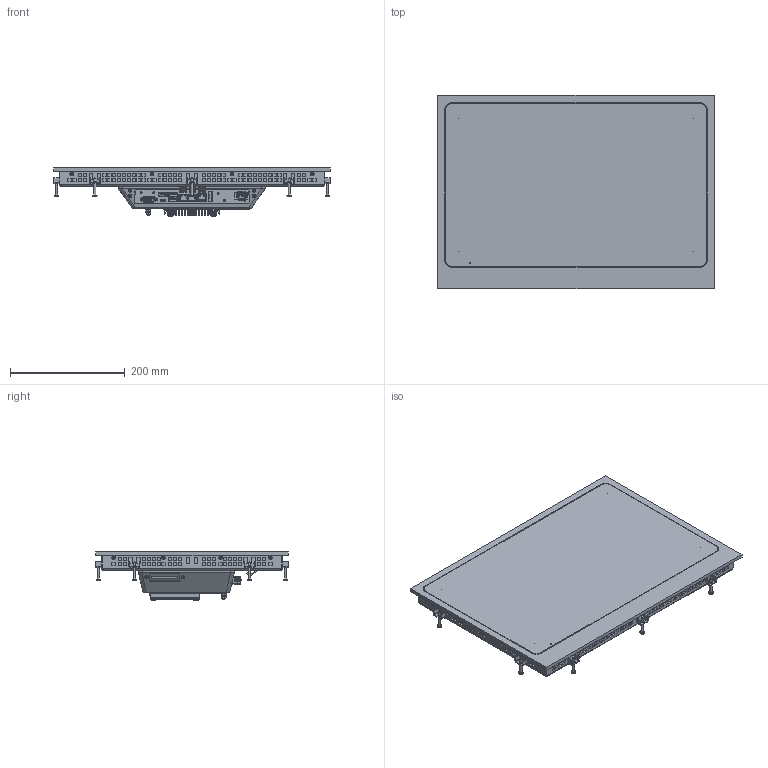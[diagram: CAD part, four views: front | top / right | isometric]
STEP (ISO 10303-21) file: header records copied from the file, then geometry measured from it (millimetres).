
FILE_DESCRIPTION(/* description */ (''),/* implementation_level */ '2;1');
FILE_NAME(/* name */ 'D:\Modelle vereinfacht\notion.S\778-11987-00\778-11987-00_IAM_000_EXTERN.stp',/* time_stamp */ '2025-01-21T16:34:41+01:00',/* author */ ('Blessing'),/* organization */ (''),/* preprocessor_version */ 'ST-DEVELOPER v18.1',/* originating_system */ 'Autodesk Inventor 2021',/* authorisation */ '');
FILE_SCHEMA (('AUTOMOTIVE_DESIGN { 1 0 10303 214 3 1 1 }'));
Products named in the file (1): 778-11987-00_IAM_000_Shrinkwrap_2
Bounding box: 483.5 x 337.5 x 84 mm (x, y, z)
Volume: 6240013 mm3; surface area: 511468.2 mm2
Topology: 1 solids, 25 shells, 10605 faces, 30069 edges, 19684 vertices
Faces by surface type: plane 6656, cylinder 2242, bspline 1216, cone 370, torus 90, sphere 31
Full cylindrical faces by diameter (mm): 0.457 x1, 0.85 x1, 2.156 x2, 3 x5, 3.01 x5, 3.242 x9, 4 x24, 4.3 x2, 5.54 x34, 6 x1, 6.5 x2
Entity records: 384236 total; most frequent: CARTESIAN_POINT 105758, ORIENTED_EDGE 58507, DIRECTION 50316, EDGE_CURVE 29985, LINE 21066, VECTOR 21066, VERTEX_POINT 19708, AXIS2_PLACEMENT_3D 14625
